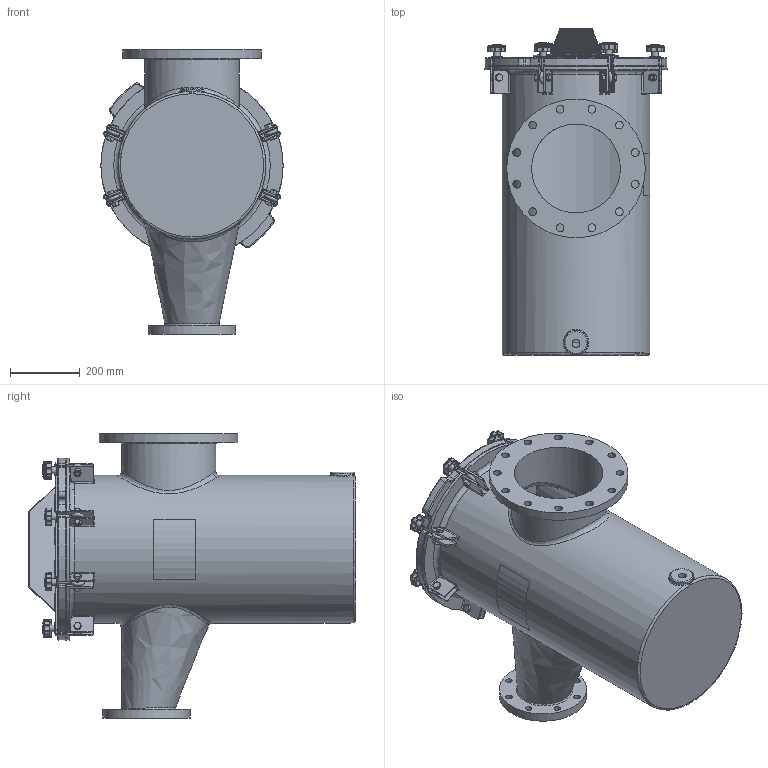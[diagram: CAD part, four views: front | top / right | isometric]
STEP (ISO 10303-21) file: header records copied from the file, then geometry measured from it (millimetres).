
FILE_DESCRIPTION(/* description */ ('250MM X 125MM FIBERGLASS STRAINER BODY'),/* implementation_level */ '2;1');
FILE_NAME(/* name */ 'E:\New folder (7)\Ready for delivery - Do not Disturb -Updated with metric Flange\Workspace\FG Reducing Strainer\Guardian FG Reducing H&L Strainer (Metric)\STRAINER H&L 250MM X 125MM.step',/* time_stamp */ '2016-10-19T04:14:57+06:00',/* author */ ('20076253'),/* organization */ (''),/* preprocessor_version */ 'ST-DEVELOPER v16.1',/* originating_system */ 'Autodesk Inventor 2016',/* authorisation */ '');
FILE_SCHEMA (('AUTOMOTIVE_DESIGN { 1 0 10303 214 3 1 1 }'));
Length unit declared in the file: inch
Products named in the file (24): NBFGBODY10X05MM; 150NBCVR20R2; 150NBGSK16R1; Perforated Basket 16in; Bride (Ring) 16in; Baffle 16in; Handle 16in; Bottom Strainer 16in; NBBSK10T316; BRACESTRCVR16_Welds; BRACE (BASE) FOR 16 BODY; BRACE (PROJ) FOR 16 BODY; Bumper; BRACESTRCVR16; Nut- 1_2  UNC; Bolt-1_2 x 1 1_2  UNC; EyeBolt; Washer; Knob M10; Securing Assembly For FG  with Brace; Securing Assembly For FG without Brace; Label for 16.625 inch (Right); Label for 16.625 inch (Left); STRAINER H&L 250MM X 125MM
Assembly tree (39 placements, depth 3):
  STRAINER H&L 250MM X 125MM
    NBFGBODY10X05MM
    150NBCVR20R2
    150NBGSK16R1
    NBBSK10T316
      Perforated Basket 16in
      Bride (Ring) 16in
      Baffle 16in
      Handle 16in
      Bottom Strainer 16in
    BRACESTRCVR16
      BRACESTRCVR16_Welds
      BRACE (BASE) FOR 16 BODY
      BRACE (PROJ) FOR 16 BODY
      Bumper  x6
    Securing Assembly For FG  with Brace  x2
      Nut- 1_2  UNC
      Bolt-1_2 x 1 1_2  UNC
      EyeBolt
      Washer
      Knob M10
    Securing Assembly For FG without Brace  x6
      Nut- 1_2  UNC
      Bolt-1_2 x 1 1_2  UNC
      EyeBolt
      Washer
      Knob M10
    Label for 16.625 inch (Right)
    Label for 16.625 inch (Left)
Bounding box: 520.7 x 933.45 x 812.8 mm (x, y, z)
Volume: 22365960.8 mm3; surface area: 5706594.3 mm2
Topology: 66 solids, 66 shells, 1804 faces, 4113 edges, 2430 vertices
Faces by surface type: cylinder 658, plane 500, cone 184, torus 166, sphere 158, bspline 138
Full cylindrical faces by diameter (mm): 3.175 x11, 6.35 x2, 8.382 x8, 9.525 x16, 10.592 x8, 12.7 x8, 15.875 x16, 17.78 x8, 19 x16, 19.05 x8, 22.098 x12, 22.809 x1, 31.75 x8, 68.263 x1, 248.92 x1, 254 x1, 269.875 x1, 295.275 x2, 298.45 x1, 300.99 x1, 396.24 x1, 406.4 x2, 409.575 x1, 415.925 x1, 422.275 x1, 457.2 x1, 463.55 x1
Entity records: 33963 total; most frequent: CARTESIAN_POINT 11172, DIRECTION 4715, ORIENTED_EDGE 4300, EDGE_CURVE 2150, AXIS2_PLACEMENT_3D 1934, VERTEX_POINT 1347, EDGE_LOOP 1167, ADVANCED_FACE 954
